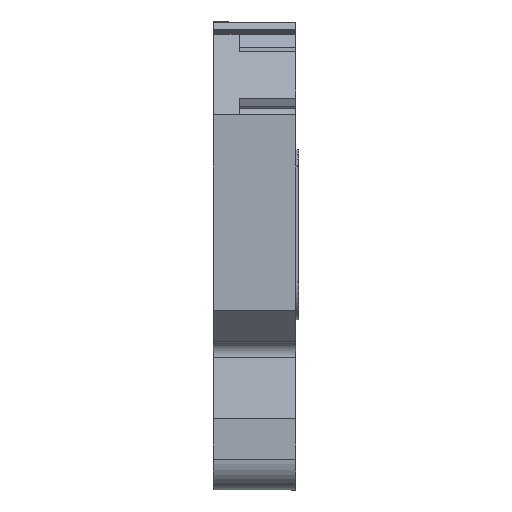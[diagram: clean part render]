
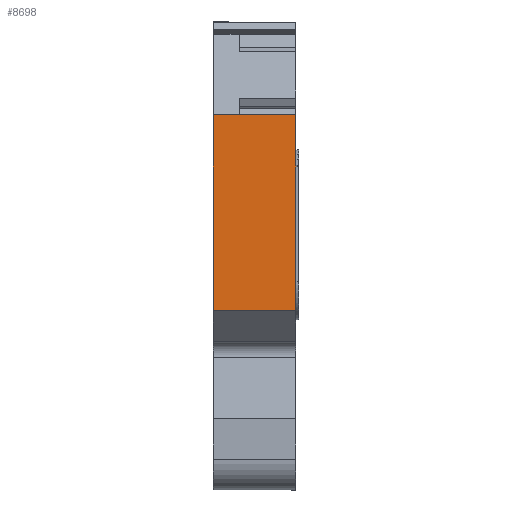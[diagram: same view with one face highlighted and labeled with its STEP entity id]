
A CAD part, left-side view. The second image highlights one B-rep face of the part: STEP entity #8698.
In plain terms, the highlighted planar face has unit normal (-1, 0, 0).
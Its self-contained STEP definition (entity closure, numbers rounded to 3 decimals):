
#90 = CARTESIAN_POINT ( 'NONE',  ( 241.258, 45.026, 28.4 ) ) ;
#216 = DIRECTION ( 'NONE',  ( 0., 0., 1. ) ) ;
#220 = ORIENTED_EDGE ( 'NONE', *, *, #15613, .T. ) ;
#344 = VECTOR ( 'NONE', #6664, 1000. ) ;
#389 = DIRECTION ( 'NONE',  ( 0., 1., 0. ) ) ;
#1002 = ORIENTED_EDGE ( 'NONE', *, *, #11138, .T. ) ;
#1868 = CARTESIAN_POINT ( 'NONE',  ( 241.258, 53.026, 9.4 ) ) ;
#2176 = CARTESIAN_POINT ( 'NONE',  ( 241.258, 53.026, -8. ) ) ;
#2394 = ORIENTED_EDGE ( 'NONE', *, *, #3408, .T. ) ;
#2988 = LINE ( 'NONE', #15164, #344 ) ;
#3329 = FACE_OUTER_BOUND ( 'NONE', #6976, .T. ) ;
#3408 = EDGE_CURVE ( 'NONE', #8421, #9041, #15166, .T. ) ;
#3652 = CARTESIAN_POINT ( 'NONE',  ( 241.258, 45.026, 9.4 ) ) ;
#6664 = DIRECTION ( 'NONE',  ( 0., 0., 1. ) ) ;
#6976 = EDGE_LOOP ( 'NONE', ( #9269, #2394, #220, #1002 ) ) ;
#7138 = LINE ( 'NONE', #9404, #14778 ) ;
#7189 = VERTEX_POINT ( 'NONE', #90 ) ;
#7849 = CARTESIAN_POINT ( 'NONE',  ( 241.258, 53.026, 9.4 ) ) ;
#8303 = EDGE_CURVE ( 'NONE', #8421, #9669, #12602, .T. ) ;
#8346 = DIRECTION ( 'NONE',  ( 0., 0., 1. ) ) ;
#8421 = VERTEX_POINT ( 'NONE', #12899 ) ;
#8698 = ADVANCED_FACE ( 'NONE', ( #3329 ), #13782, .T. ) ;
#9041 = VERTEX_POINT ( 'NONE', #3652 ) ;
#9269 = ORIENTED_EDGE ( 'NONE', *, *, #8303, .F. ) ;
#9404 = CARTESIAN_POINT ( 'NONE',  ( 241.258, 53.026, 28.4 ) ) ;
#9669 = VERTEX_POINT ( 'NONE', #16136 ) ;
#10076 = VECTOR ( 'NONE', #16014, 1000. ) ;
#10689 = AXIS2_PLACEMENT_3D ( 'NONE', #7849, #14634, #216 ) ;
#11138 = EDGE_CURVE ( 'NONE', #7189, #9669, #7138, .T. ) ;
#12602 = LINE ( 'NONE', #2176, #14270 ) ;
#12899 = CARTESIAN_POINT ( 'NONE',  ( 241.258, 53.026, 9.4 ) ) ;
#13782 = PLANE ( 'NONE',  #10689 ) ;
#14270 = VECTOR ( 'NONE', #8346, 1000. ) ;
#14634 = DIRECTION ( 'NONE',  ( -1., 0., 0. ) ) ;
#14778 = VECTOR ( 'NONE', #389, 1000. ) ;
#15164 = CARTESIAN_POINT ( 'NONE',  ( 241.258, 45.026, 9.4 ) ) ;
#15166 = LINE ( 'NONE', #1868, #10076 ) ;
#15613 = EDGE_CURVE ( 'NONE', #9041, #7189, #2988, .T. ) ;
#16014 = DIRECTION ( 'NONE',  ( 0., -1., 0. ) ) ;
#16136 = CARTESIAN_POINT ( 'NONE',  ( 241.258, 53.026, 28.4 ) ) ;
